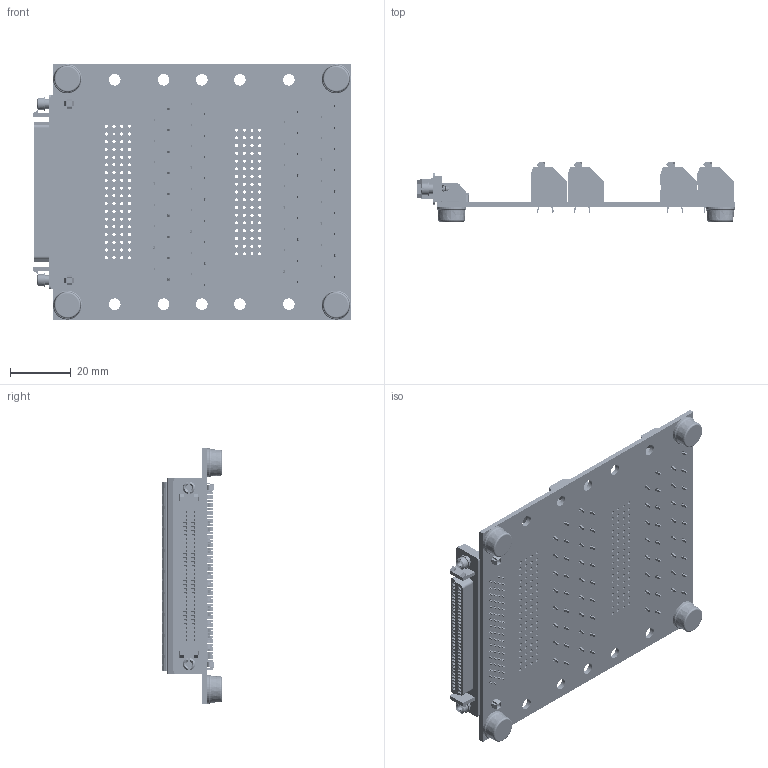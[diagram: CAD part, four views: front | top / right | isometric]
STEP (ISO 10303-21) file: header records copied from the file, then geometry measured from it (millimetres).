
FILE_DESCRIPTION (( 'STEP AP214' ), '1' );
FILE_NAME ('brkgdp68fv1-r-ft_rev_a.step', '2022-12-19T14:53:52', ( '' ), ( '' ), 'SwSTEP 2.0', 'SolidWorks 2018', '' );
FILE_SCHEMA (( 'AUTOMOTIVE_DESIGN' ));
Length unit declared in the file: inch
Products named in the file (7): brkgdp68fv1-r-ft_rev_a; Spring Terminal 17 Position_Screw Terminal_17 Positions; Spring Terminal 18 Position_Screw Terminal_18 Positions; Jack Socket Flat; round_rubber_foot; brkgdp68fv1-r_PCB; HPDB Right Angle Female 68 Pin
Assembly tree (12 placements, depth 2):
  brkgdp68fv1-r-ft_rev_a
    brkgdp68fv1-r_PCB
    HPDB Right Angle Female 68 Pin
    Spring Terminal 18 Position_Screw Terminal_18 Positions
    Spring Terminal 17 Position_Screw Terminal_17 Positions  x3
    Jack Socket Flat  x2
    round_rubber_foot  x4
Bounding box: 104.22 x 19.5 x 83.82 mm (x, y, z)
Volume: 47153.3 mm3; surface area: 41907 mm2
Topology: 12 solids, 12 shells, 10867 faces, 29409 edges, 19210 vertices
Faces by surface type: plane 6685, cylinder 2219, bspline 1578, cone 369, torus 16
Entity records: 425107 total; most frequent: CARTESIAN_POINT 143963, ORIENTED_EDGE 43372, DIRECTION 33393, EDGE_CURVE 21686, LINE 14841, VECTOR 14841, VERTEX_POINT 14177, AXIS2_PLACEMENT_3D 9276
